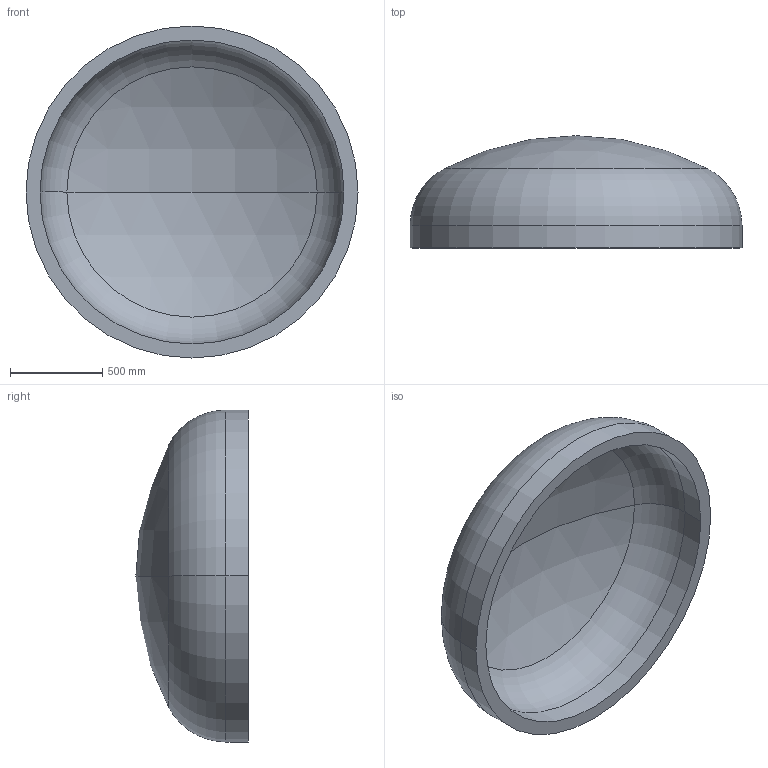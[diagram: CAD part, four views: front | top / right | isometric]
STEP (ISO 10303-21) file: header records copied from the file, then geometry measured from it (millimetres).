
FILE_DESCRIPTION (( 'STEP AP203' ), '1' );
FILE_NAME ('DIN 28013 Korbbogenform_-_Boden DIN 28013 - 1800 x 120 - I - s=76.step', '2016-07-01T12:39:26', ( '' ), ( '' ), 'SwSTEP 2.0', 'SolidWorks 2013', '' );
FILE_SCHEMA (( 'CONFIG_CONTROL_DESIGN' ));
Length unit declared in the file: millimetre
Products named in the file (1): DIN 28013 Korbbogenform_-_Boden DIN 28013 - 1800 x 120 - I - s=76
Bounding box: 1800 x 608.47 x 1800 mm (x, y, z)
Volume: 302602806.9 mm3; surface area: 8386950.8 mm2
Topology: 1 solids, 1 shells, 13 faces, 24 edges, 14 vertices
Faces by surface type: torus 4, cylinder 4, sphere 4, plane 1
Entity records: 407 total; most frequent: DIRECTION 72, CARTESIAN_POINT 52, ORIENTED_EDGE 48, AXIS2_PLACEMENT_3D 34, EDGE_CURVE 24, CIRCLE 20, EDGE_LOOP 14, VERTEX_POINT 14
